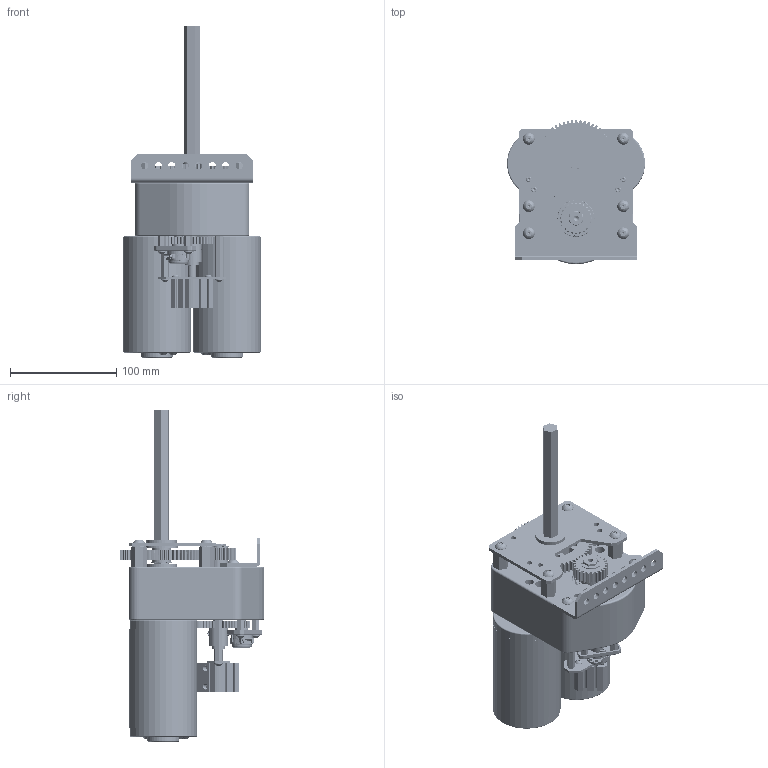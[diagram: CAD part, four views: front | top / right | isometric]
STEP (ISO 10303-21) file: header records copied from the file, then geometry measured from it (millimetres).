
FILE_DESCRIPTION (( 'STEP AP203' ), '1' );
FILE_NAME ('217-2615 wUS Digital Encoder.20130115.STEP', '2013-01-16T16:17:24', ( '' ), ( '' ), 'SwSTEP 2.0', 'SolidWorks 2012', '' );
FILE_SCHEMA (( 'CONFIG_CONTROL_DESIGN' ));
Length unit declared in the file: inch
Products named in the file (66): 217-2617-002 Rev1_91780A359; 217-2617-001 Rev4; 217-2714-001_60t; 217-2704-001_30; 217-2734; 217-2743; 217-2617-003 Rev1; E4P-X-250-X-D-D-D-X; 217-2000; 217-2793-001 Rev1; 217-2428-007 Rev1; 217-2791-001 Rev2; 217-2790-004 Rev2; 217-2790-003 Rev2 ; 217-2791-002 Rev2; 217-2713-101 Rev1; 217-2713-001_60t Steel; 217-2709-101 Rev1; 217-2709-001_44t Steel; 217-2428-022 Rev1; 217-2428-028 Rev1_97633A250; 217-2428-008 Rev1; Nylock 8-32; 217-2428-029 Rev1; 217-2428-021 Rev1; 217-2428-004 Rev3; Nylock Nut_NNY2520-ZC; SBS1_SBS0832-1750SS; 217-2707-001_40t; 217-2703-001; 217-2428-002 Rev2; 217-2428-001 Rev1; 217-2761-001 rev1; 217-2614-001_12t; SBS1_SBS1032-0500ZC; PINL-0250-1125-S; SCREW-832-0250; 217-2428-009 Rev1; 217-2428-018 Rev2; 217-2428-017 Rev2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
Assembly tree (112 placements, depth 4):
  217-2615 wUS Digital Encoder.20130115
    217-2733  x2
    217-2731
    217-2789
    217-2788_57155K375  x3
    217-2428-012 Rev2
    217-2428-027 Rev1_97414A630  x2
    217-2428-005 Rev1  x2
    SCREW-832-0375  x6
    SBS1_SBS-0632-0250  x2
    217-2428-016 Rev2_Spur01
    217-2428-017 Rev2
    217-2428-018 Rev2
    217-2428-009 Rev1  x2
    SCREW-832-0250  x2
    PINL-0250-1125-S
    SBS1_SBS1032-0500ZC  x4
    217-2614-001_12t  x2
    217-2761-001 rev1  x2
    217-2428-001 Rev1
    217-2428-002 Rev2
    217-2703-001
    217-2707-001_40t
    SBS1_SBS0832-1750SS  x2
    Nylock Nut_NNY2520-ZC  x3
    217-2428-004 Rev3
    217-2428-021 Rev1
    217-2428-029 Rev1
    Nylock 8-32  x2
    217-2793-001 Rev1
      217-2428-008 Rev1
      217-2428-028 Rev1_97633A250
      217-2709-101 Rev1
        217-2428-022 Rev1
        217-2709-001_44t Steel
      217-2713-101 Rev1
        217-2713-001_60t Steel
        217-2428-022 Rev1
      217-2791-001 Rev2
        217-2791-002 Rev2
        217-2790-003 Rev2 
        217-2790-004 Rev2
      217-2428-007 Rev1  x6
    217-2000  x2
    E4P-X-250-X-D-D-D-X
    217-2617-003 Rev1
    217-2743
    217-2734
    217-2704-001_30
    217-2714-001_60t
    217-2617-001 Rev4
    217-2617-002 Rev1_91780A359  x4
    217-2617-004 Rev1_97431A340_grv  x2
    SBS1_SBS2520-1750  x4
    SBS1_SBS2520-0625ZC  x4
    217-2778-001 Rev2_NCQ8A075-050M
      217-2778-NCQ8A075-050M_NCQ8 Tube_075A
      217-2778-NCQ8A075-050M_NCQ8 Rod_075M
      217-2778-NCQ8A075-050M_Snap Ring_075
      217-2778-NCQ8A075-050M_1032_Nut_90545A111
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Bounding box: 129.88 x 135.97 x 312.65 mm (x, y, z)
Volume: 1209970 mm3; surface area: 403139.8 mm2
Topology: 166 solids, 166 shells, 6104 faces, 15494 edges, 9933 vertices
Faces by surface type: plane 2367, cylinder 2098, cone 635, bspline 580, torus 288, sphere 136
Entity records: 265152 total; most frequent: CARTESIAN_POINT 137185, ORIENTED_EDGE 25244, DIRECTION 24627, EDGE_CURVE 12622, AXIS2_PLACEMENT_3D 9182, VERTEX_POINT 8196, LINE 6263, VECTOR 6263
